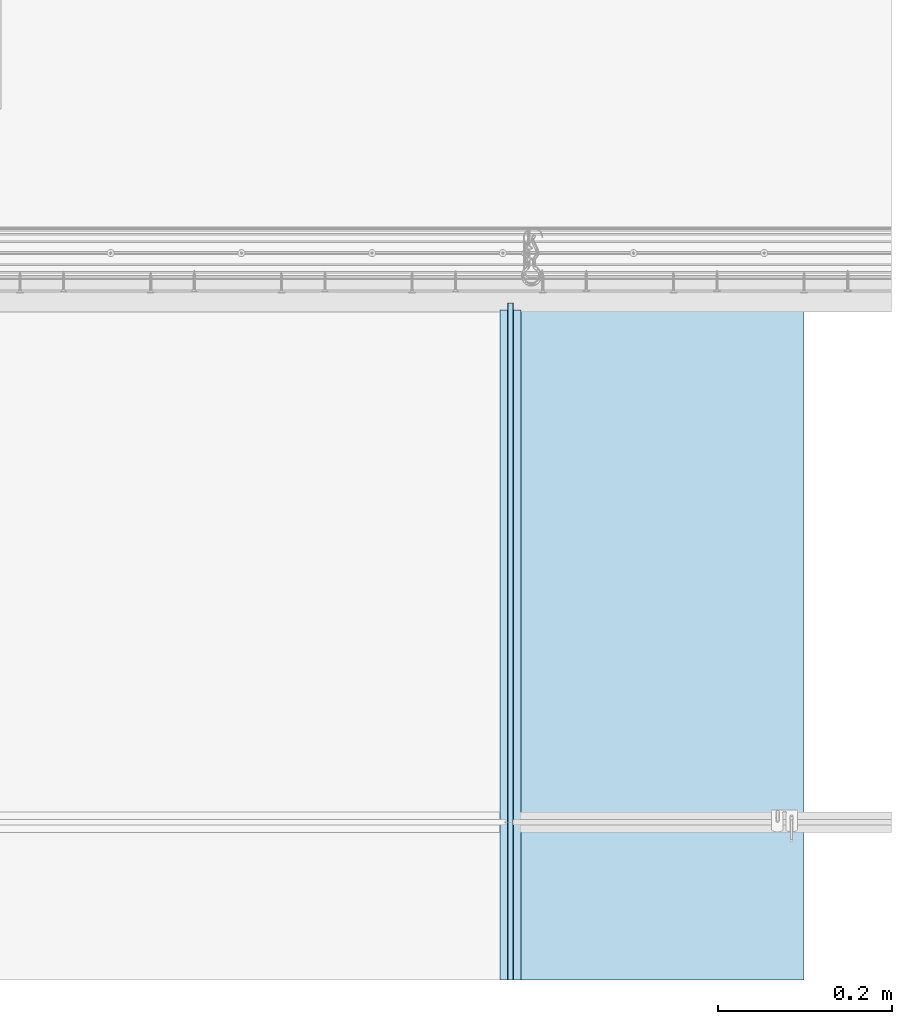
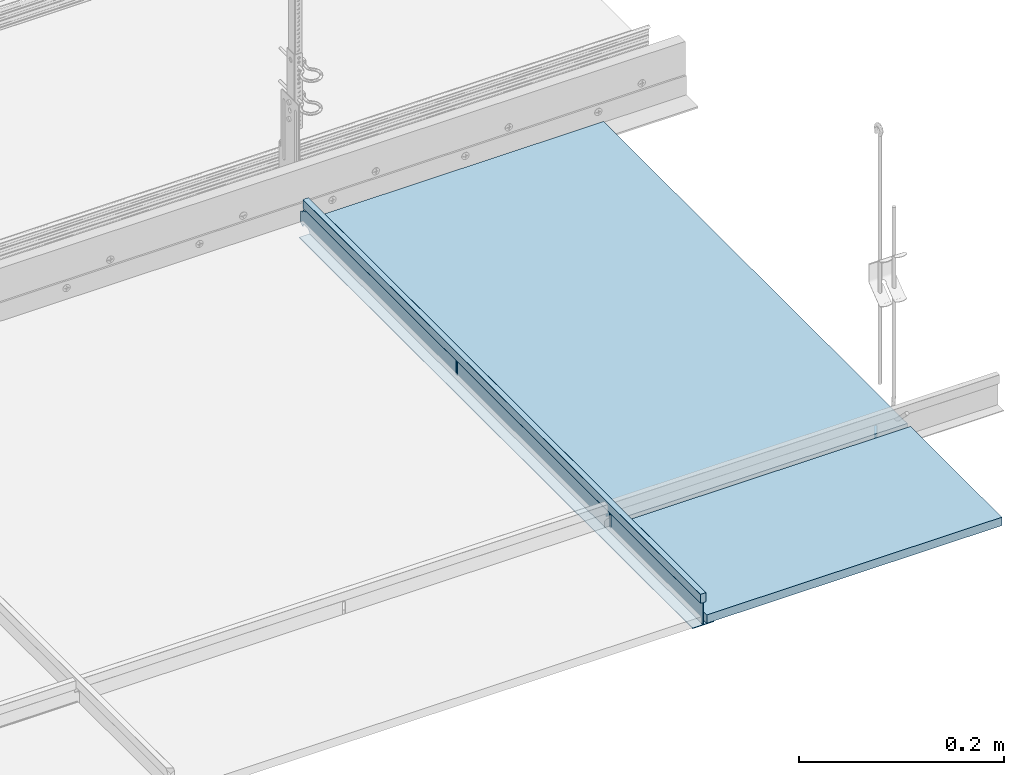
# One storey, part 7 of 79: 3 slabs.
"""IFC2X3 building model written with IfcOpenShell, lengths in millimetres."""

from ifc_helpers import new_model, entity, si_unit, converted_unit, direction, frame, origin, origin_with_axes, place, context, project, spatial, faceted_brep, element, save


model = new_model("IFC2X3")

# Units and contexts
model_context = context("Model", 3, precision=1e-05, world=origin(), true_north=direction((0.0, 1.0, 0.0)))
ifc_project = project(units=[si_unit("LENGTHUNIT", "METRE", prefix="MILLI"), si_unit("AREAUNIT", "SQUARE_METRE"), si_unit("VOLUMEUNIT", "CUBIC_METRE"), converted_unit("PLANEANGLEUNIT", "DEGREE", entity("IfcPlaneAngleMeasure", 0.01745), si_unit("PLANEANGLEUNIT", "RADIAN"), dimensions=[0, 0, 0, 0, 0, 0, 0]), si_unit("SOLIDANGLEUNIT", "STERADIAN"), si_unit("MASSUNIT", "GRAM"), si_unit("TIMEUNIT", "SECOND"), si_unit("THERMODYNAMICTEMPERATUREUNIT", "DEGREE_CELSIUS"), si_unit("LUMINOUSINTENSITYUNIT", "LUMEN")], contexts=[model_context])

# Site, building, storey
site_placement = place(None, origin_with_axes())
site = spatial("IfcSite", under=ifc_project, at=site_placement, Name="Default Site", CompositionType="ELEMENT")
building_placement = place(site_placement, origin_with_axes())
building = spatial("IfcBuilding", under=site, at=building_placement, Name="Default Building", CompositionType="ELEMENT")
storey_placement = place(building_placement, origin_with_axes())
storey = spatial("IfcBuildingStorey", under=building, at=storey_placement, Name="Default Building Storey", CompositionType="ELEMENT", Elevation=0.0)

# Slabs
slab_1_placement = place(storey_placement, frame((3160.04061825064, 1022.220922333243, 991.2852175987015), z_axis=(0.0, 0.0, 1.0), x_axis=(1.0, 0.0, 0.0)))
element("IfcSlab", 1, at=slab_1_placement, inside=storey, Name="Płyta sufitowa RIGIPS CASOPRANO", context=model_context, shape_type="Brep", body=[
    faceted_brep([(332.9999999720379, 594.0000000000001, -9.999999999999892), (3.609557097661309e-13, 593.9999999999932, -10.00000000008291), (0.0, 594.0000000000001, -7.999999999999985), (332.9999999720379, 594.0000000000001, -7.999999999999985), (-3.609557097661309e-13, -1.804778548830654e-13, -10.00000000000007), (332.9999999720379, 4.150990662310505e-12, -10.00000000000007), (332.9999999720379, 4.33146851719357e-12, -7.999999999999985), (0.0, 3.609557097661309e-13, -7.999999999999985), (0.0, 0.0, 0.0), (332.9999999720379, 0.0, 0.0), (0.0, 594.0000000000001, 0.0), (332.9999999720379, 594.0000000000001, 0.0)], [[[0, 1, 2, 3]], [[4, 1, 0, 5]], [[5, 6, 7, 4]], [[8, 7, 6, 9]], [[7, 2, 1, 4]], [[10, 2, 7, 8]], [[11, 3, 2, 10]], [[9, 6, 5, 0, 3, 11]], [[9, 11, 10, 8]]]),
])
slab_2_placement = place(storey_placement, frame((3160.040618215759, 422.2209223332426, 991.2852175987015), z_axis=(0.0, 0.0, 1.0), x_axis=(1.0, 0.0, 0.0)))
element("IfcSlab", 2, at=slab_2_placement, inside=storey, Name="Płyta sufitowa RIGIPS CASOPRANO", context=model_context, shape_type="Brep", body=[
    faceted_brep([(333.0000000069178, 415.4143925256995, -9.023892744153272e-12), (0.0, 415.4143925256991, 0.0), (0.0, 415.4143925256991, -10.00000000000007), (333.0000000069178, 415.4143925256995, -10.00000000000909), (0.0, 594.0000000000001, 0.0), (333.0000000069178, 594.0000000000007, -9.023892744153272e-12), (333.0000000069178, 594.0000000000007, -10.00000000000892), (3.609557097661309e-13, 593.9999999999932, -10.00000000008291)], [[[0, 1, 2, 3]], [[4, 1, 0, 5]], [[6, 3, 2, 7]], [[7, 2, 1, 4]], [[5, 6, 7, 4]], [[0, 3, 6, 5]]]),
])
slab_3_placement = place(storey_placement, frame((3144.035723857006, 837.6353148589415, 980.285217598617), z_axis=(0.0, 0.0, 1.0), x_axis=(1.0, 0.0, 0.0)))
element("IfcSlab", 3, at=slab_3_placement, inside=storey, Name="Profil poprzeczny RIGIPS T24", context=model_context, shape_type="Brep", body=[
    faceted_brep([(23.90000004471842, 769.2103810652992, 3.609557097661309e-13), (24.0000000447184, 769.2103810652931, 0.1000000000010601), (23.99510569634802, 769.2103810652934, 0.06909830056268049), (23.98090174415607, 769.2103810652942, 0.04122147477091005), (23.95877856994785, 769.2103810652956, 0.01909830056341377), (23.93090174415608, 769.2103810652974, 0.004894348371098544), (24.0000000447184, 769.2103810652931, 0.9000000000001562), (23.90000004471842, 769.2103810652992, 1.000000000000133), (23.93090174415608, 769.2103810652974, 0.9951056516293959), (23.95877856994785, 769.2103810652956, 0.9809016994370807), (23.98090174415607, 769.2103810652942, 0.9587785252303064), (23.99510569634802, 769.2103810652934, 0.930901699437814), (4.471844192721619e-08, 769.2103810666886, 0.1000000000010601), (0.1000000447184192, 769.2103810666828, 3.609557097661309e-13), (0.06909834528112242, 769.2103810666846, 0.004894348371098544), (0.04122151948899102, 769.2103810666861, 0.01909830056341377), (0.01909834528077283, 769.2103810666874, 0.04122147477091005), (0.004894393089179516, 769.2103810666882, 0.06909830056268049), (0.1000000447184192, 769.2103810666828, 1.000000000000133), (4.471844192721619e-08, 769.2103810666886, 0.9000000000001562), (0.004894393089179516, 769.2103810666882, 0.930901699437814), (0.01909834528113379, 769.2103810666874, 0.9587785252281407), (0.04122151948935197, 769.2103810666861, 0.9809016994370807), (0.06909834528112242, 769.2103810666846, 0.9951056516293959), (12.25000001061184, 182.5356075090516, 6.830574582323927), (12.25000001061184, 182.5356075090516, 23.83057458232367), (11.75000001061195, 182.5356075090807, 23.83057458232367), (11.75000001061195, 182.5356075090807, 6.830574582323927), (12.25000001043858, 179.5356075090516, 6.830574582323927), (11.75000001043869, 179.5356075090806, 6.830574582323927), (12.25000001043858, 179.5356075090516, 23.83057458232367), (11.75000001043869, 179.5356075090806, 23.83057458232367), (12.2500000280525, 482.5356075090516, 23.83057458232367), (12.25000002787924, 479.5356075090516, 23.83057458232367), (11.75000002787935, 479.5356075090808, 23.83057458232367), (11.75000002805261, 482.5356075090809, 23.83057458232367), (12.25000002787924, 479.5356075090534, 6.830574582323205), (11.75000002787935, 479.5356075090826, 6.830574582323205), (12.2500000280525, 482.5356075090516, 6.830574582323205), (11.75000002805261, 482.5356075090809, 6.830574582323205), (12.25000004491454, 772.5846432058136, 4.956101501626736), (11.75000004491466, 772.5846432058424, 4.956101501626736), (11.75000004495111, 773.2103810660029, 5.005348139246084), (12.250000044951, 773.210381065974, 5.005348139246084), (12.25000004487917, 771.9743130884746, 4.809574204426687), (11.75000004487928, 771.9743130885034, 4.809574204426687), (12.2500000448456, 771.3944190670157, 4.569374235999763), (11.75000004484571, 771.3944190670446, 4.569374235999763), (12.2500000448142, 770.8592400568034, 4.24141611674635), (11.75000004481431, 770.8592400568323, 4.24141611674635), (12.25000004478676, 770.3819539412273, 3.833775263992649), (11.75000004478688, 770.3819539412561, 3.833775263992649), (12.25000004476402, 769.9743130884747, 3.356489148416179), (11.75000004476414, 769.9743130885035, 3.356489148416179), (12.25000004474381, 769.6463549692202, 2.821310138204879), (11.75000004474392, 769.646354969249, 2.821310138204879), (12.25000004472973, 769.406155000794, 2.241416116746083), (11.75000004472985, 769.4061550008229, 2.241416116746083), (12.25000004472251, 769.2596277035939, 1.631085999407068), (11.75000004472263, 769.2596277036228, 1.631085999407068), (12.25000004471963, 769.2103810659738, 1.005348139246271), (11.75000004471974, 769.2103810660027, 1.005348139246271), (12.25000004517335, 777.0356075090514, 5.005348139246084), (12.25000004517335, 777.0356075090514, 4.83057458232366), (12.25000004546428, 782.0356075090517, 4.83057458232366), (12.25000004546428, 782.0356075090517, 1.830574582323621), (12.25000004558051, 784.0356075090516, 1.830574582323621), (12.25000004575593, 787.0356075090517, 3.830574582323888), (12.25000004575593, 787.0356075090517, 16.83057458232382), (12.25000004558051, 784.0356075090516, 18.83057458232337), (12.25000004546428, 782.0356075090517, 18.83057458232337), (12.25000004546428, 782.0356075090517, 21.8305745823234), (12.25000004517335, 777.0356075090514, 21.8305745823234), (12.2531831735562, 777.0356075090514, 26.83057458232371), (12.25216747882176, 595.5836991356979, 26.83060440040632), (12.25114981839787, 595.1491790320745, 26.83056726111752), (12.25217031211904, 594.9777323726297, 26.83063494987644), (12.25217203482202, 591.9068147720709, 26.8306476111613), (12.2531831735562, 0.0, 26.83057458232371), (12.25000000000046, 0.0, 0.8000000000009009), (12.25000004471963, 769.2103810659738, 0.800000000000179), (23.00000004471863, 769.2103810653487, 0.800000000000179), (23.00000004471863, 769.2103810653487, 0.5000000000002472), (1.000000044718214, 769.2103810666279, 0.5000000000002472), (1.000000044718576, 769.2103810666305, 0.800000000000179), (11.75000004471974, 769.2103810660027, 0.800000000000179), (11.75000004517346, 777.0356075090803, 5.005348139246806), (11.75000000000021, 0.0, 0.80000000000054), (11.75000000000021, 0.0, 6.830574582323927), (11.75000004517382, 777.0356075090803, 26.83057458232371), (11.75000004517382, 777.0356075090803, 21.8305745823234), (11.75000004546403, 782.0356075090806, 21.8305745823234), (11.75000004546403, 782.0356075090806, 18.83057458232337), (11.75000004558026, 784.0356075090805, 18.83057458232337), (11.75000004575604, 787.0356075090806, 16.83057458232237), (11.75000004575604, 787.0356075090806, 3.830574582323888), (11.75000004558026, 784.0356075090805, 1.830574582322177), (11.75000004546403, 782.0356075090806, 1.830574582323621), (11.75000004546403, 782.0356075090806, 4.83057458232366), (11.75000004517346, 777.0356075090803, 4.83057458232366), (1.000000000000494, 0.0, 0.5000000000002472), (1.000000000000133, 0.0, 0.80000000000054), (0.9999999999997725, 0.0, 1.000000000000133), (0.09999999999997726, 0.0, 1.000000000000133), (0.06909830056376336, 0.0, 0.995105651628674), (0.04122147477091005, 0.0, 0.9809016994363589), (0.01909830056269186, 0.0, 0.9587785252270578), (0.004894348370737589, 0.0, 0.9309016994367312), (3.609557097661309e-13, 0.0, 0.8999999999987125), (0.0, 0.0, 0.0999999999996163), (0.004894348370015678, 0.0, 0.06909830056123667), (0.01909830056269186, 0.0, 0.04122147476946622), (0.04122147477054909, 0.0, 0.01909830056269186), (0.06909830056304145, 0.0, 0.004894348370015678), (0.1000000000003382, 0.0, 0.0), (23.89999999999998, 0.0, 3.609557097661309e-13), (23.93090169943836, 0.0, 0.004894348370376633), (23.95877852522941, 0.0, 0.0190983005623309), (23.98090169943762, 0.0, 0.04122147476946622), (23.99510565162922, 0.0, 0.06909830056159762), (23.99999999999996, 0.0, 0.1000000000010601), (23.99999999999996, 0.0, 0.9000000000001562), (23.9951056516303, 0.0, 0.9309016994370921), (23.98090169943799, 0.0, 0.9587785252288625), (23.95877852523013, 0.0, 0.9809016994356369), (23.930901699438, 0.0, 0.995105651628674), (23.90000000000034, 0.0, 1.000000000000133), (23.00000000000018, 0.0, 1.000000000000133), (23.00000000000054, 0.0, 0.8000000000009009), (23.00000000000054, 0.0, 0.5000000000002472), (1.000000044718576, 769.2103810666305, 1.000000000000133), (23.00000004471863, 769.2103810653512, 1.000000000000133), (11.74999999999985, 0.0, 26.83057458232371), (12.2531831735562, 0.0, 26.85872058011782), (12.25197263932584, 777.0356075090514, 26.85859504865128), (12.26556593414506, 0.0, 26.90878863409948), (12.28078940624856, 0.0, 26.93719435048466), (12.29739600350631, 0.0, 26.95984956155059), (12.3170128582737, 0.0, 26.97995470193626), (12.33925300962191, 0.0, 26.99711317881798), (12.36367774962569, 0.0, 27.01098652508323), (12.38980527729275, 0.0, 27.02130107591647), (12.41712020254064, 0.0, 27.02785336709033), (15.08287979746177, 0.0, 27.47214663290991), (15.11019472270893, 0.0, 27.4786989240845), (15.13632225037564, 0.0, 27.48901347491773), (15.16074699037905, 0.0, 27.50288682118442), (15.18298714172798, 0.0, 27.52004529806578), (15.20260399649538, 0.0, 27.54015043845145), (15.21921059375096, 0.0, 27.56280564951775), (15.23247935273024, 0.0, 27.58756403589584), (15.24214853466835, 0.0, 27.61393721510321), (15.24802740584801, 0.0, 27.6414049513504), (15.25000000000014, 0.0, 27.66942541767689), (15.2500000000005, 0.0, 37.80000000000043), (15.24753766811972, 0.0, 37.83128689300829), (15.24021130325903, 0.0, 37.86180339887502), (15.22820130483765, 0.0, 37.89079809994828), (15.21180339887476, 0.0, 37.91755705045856), (15.1914213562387, 0.0, 37.94142135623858), (15.16755705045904, 0.0, 37.9618033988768), (15.14079809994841, 0.0, 37.97820130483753), (15.11180339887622, 0.0, 37.99021130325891), (15.08128689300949, 0.0, 37.9975376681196), (15.05000000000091, 0.0, 38.00000000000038), (8.950000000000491, 0.0, 38.00000000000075), (8.918713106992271, 0.0, 37.9975376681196), (8.888196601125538, 0.0, 37.99021130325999), (8.859201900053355, 0.0, 37.97820130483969), (8.832442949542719, 0.0, 37.96180339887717), (8.808578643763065, 0.0, 37.94142135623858), (8.78819660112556, 0.0, 37.91755705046), (8.771798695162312, 0.0, 37.89079809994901), (8.75978869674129, 0.0, 37.86180339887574), (8.752462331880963, 0.0, 37.83128689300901), (8.750000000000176, 0.0, 37.80000000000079), (8.749999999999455, 0.0, 27.66942541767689), (8.751972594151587, 0.0, 27.64140495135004), (8.757851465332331, 0.0, 27.61393721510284), (8.767520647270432, 0.0, 27.58756403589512), (8.78078940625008, 0.0, 27.56280564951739), (8.797396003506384, 0.0, 27.54015043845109), (8.817012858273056, 0.0, 27.52004529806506), (8.839253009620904, 0.0, 27.50288682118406), (8.86367774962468, 0.0, 27.48901347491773), (8.889805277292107, 0.0, 27.4786989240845), (8.91712020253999, 0.0, 27.47214663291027), (11.58287979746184, 0.0, 27.02785336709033), (11.61019472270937, 0.0, 27.0213010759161), (11.63632225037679, 0.0, 27.01098652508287), (11.66074699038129, 0.0, 26.99711317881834), (11.68298714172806, 0.0, 26.97995470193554), (11.70260399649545, 0.0, 26.95984956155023), (11.71921059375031, 0.0, 26.93719435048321), (11.7324793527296, 0.0, 26.91243596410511), (11.7421485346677, 0.0, 26.88606278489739), (11.74802740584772, 0.0, 26.85859504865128), (15.08287984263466, 777.0356075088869, 27.47214663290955), (15.25000004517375, 777.0356075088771, 27.66942541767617), (15.24802745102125, 777.0356075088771, 27.64140495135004), (15.24214857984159, 777.0356075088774, 27.61393721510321), (15.23247939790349, 777.0356075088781, 27.58756403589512), (15.21921063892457, 777.0356075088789, 27.56280564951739), (15.2026040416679, 777.0356075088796, 27.54015043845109), (15.18298718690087, 777.0356075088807, 27.52004529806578), (15.16074703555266, 777.0356075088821, 27.5028868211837), (15.13632229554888, 777.0356075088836, 27.48901347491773), (15.11019476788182, 777.035607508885, 27.4786989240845), (8.917120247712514, 777.0356075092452, 27.47214663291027), (8.750000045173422, 777.035607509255, 27.66942541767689), (12.4171202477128, 777.0356075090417, 27.02785336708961), (12.38980532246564, 777.0356075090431, 27.0213010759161), (12.36367779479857, 777.0356075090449, 27.01098652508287), (12.33925305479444, 777.035607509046, 26.99711317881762), (12.31701290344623, 777.0356075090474, 26.97995470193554), (12.29739604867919, 777.0356075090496, 26.95984956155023), (12.28078945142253, 777.0356075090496, 26.93719435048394), (12.2675206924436, 777.0356075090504, 26.9124359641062), (11.66074703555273, 777.0356075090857, 26.99711317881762), (11.6363222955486, 777.0356075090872, 27.01098652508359), (11.61019476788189, 777.0356075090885, 27.02130107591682), (11.58287984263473, 777.03560750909, 27.02785336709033), (8.889805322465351, 777.0356075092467, 27.4786989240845), (8.863677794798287, 777.0356075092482, 27.48901347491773), (8.83925305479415, 777.0356075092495, 27.5028868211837), (8.817012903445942, 777.035607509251, 27.52004529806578), (8.797396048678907, 777.0356075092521, 27.54015043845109), (8.780789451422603, 777.0356075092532, 27.56280564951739), (8.767520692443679, 777.035607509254, 27.58756403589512), (8.757851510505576, 777.0356075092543, 27.61393721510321), (8.751972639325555, 777.0356075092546, 27.64140495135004), (11.70260404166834, 777.0356075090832, 26.95984956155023), (11.68298718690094, 777.0356075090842, 26.97995470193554), (12.2578515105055, 777.035607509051, 26.88606278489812), (12.25282061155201, 557.6175692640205, 26.85860023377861), (12.26508841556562, 743.9273872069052, 26.91267923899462), (12.25819111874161, 411.4434548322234, 26.88602829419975), (15.2475377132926, 777.0356075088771, 37.83128689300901), (15.25000004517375, 777.0356075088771, 37.79999999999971), (15.24021134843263, 777.0356075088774, 37.86180339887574), (8.77179874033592, 777.0356075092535, 37.89079809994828), (8.788196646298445, 777.0356075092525, 37.91755705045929), (15.11180344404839, 777.035607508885, 37.99021130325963), (15.14079814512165, 777.0356075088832, 37.97820130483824), (8.832442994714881, 777.03560750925, 37.96180339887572), (8.859201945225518, 777.0356075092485, 37.97820130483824), (15.16755709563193, 777.0356075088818, 37.96180339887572), (8.750000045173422, 777.035607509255, 37.80000000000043), (8.75246237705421, 777.0356075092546, 37.83128689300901), (8.950000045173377, 777.035607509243, 38.00000000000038), (15.05000004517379, 777.0356075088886, 37.99999999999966), (15.19142140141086, 777.0356075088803, 37.94142135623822), (15.21180344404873, 777.0356075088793, 37.91755705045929), (8.759788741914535, 777.0356075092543, 37.86180339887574), (11.71921063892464, 777.0356075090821, 26.93719435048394), (11.73247939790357, 777.0356075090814, 26.9124359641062), (11.74802745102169, 777.0356075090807, 26.85859504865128), (11.74214857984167, 777.035607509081, 26.88606278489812), (15.22820135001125, 777.0356075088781, 37.89079809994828), (8.80857868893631, 777.0356075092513, 37.94142135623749), (8.918713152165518, 777.0356075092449, 37.9975376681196), (8.888196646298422, 777.0356075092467, 37.99021130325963), (15.08128693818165, 777.0356075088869, 37.9975376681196)], [[[0, 1, 2, 3, 4, 5]], [[6, 7, 8, 9, 10, 11]], [[12, 13, 14, 15, 16, 17]], [[18, 19, 20, 21, 22, 23]], [[24, 25, 26, 27]], [[28, 24, 27, 29]], [[30, 28, 29, 31]], [[25, 30, 31, 26]], [[32, 33, 34, 35]], [[33, 36, 37, 34]], [[36, 38, 39, 37]], [[38, 32, 35, 39]], [[40, 41, 42, 43]], [[41, 40, 44, 45]], [[45, 44, 46, 47]], [[47, 46, 48, 49]], [[49, 48, 50, 51]], [[51, 50, 52, 53]], [[53, 52, 54, 55]], [[55, 54, 56, 57]], [[57, 56, 58, 59]], [[59, 58, 60, 61]], [[40, 43, 62, 63, 64, 65, 66, 67, 68, 69, 70, 71, 72, 73, 74, 75, 76, 77, 78, 79, 80, 60, 58, 56, 54, 52, 50, 48, 46, 44], [33, 32, 38, 36], [25, 24, 28, 30]], [[60, 80, 81, 82, 83, 84, 85, 61]], [[62, 43, 42, 86]], [[85, 87, 88, 29, 27, 26, 34, 37, 39, 35, 89, 90, 91, 92, 93, 94, 95, 96, 97, 98, 99, 86, 42, 41, 45, 47, 49, 51, 53, 55, 57, 59, 61]], [[100, 101, 102, 103, 104, 105, 106, 107, 108, 109, 110, 111, 112, 113, 114, 115, 116, 117, 118, 119, 120, 121, 122, 123, 124, 125, 126, 127, 128, 129]], [[13, 114, 113, 14]], [[18, 130, 84, 83, 82, 81, 131, 7, 6, 1, 0, 13, 12, 19]], [[5, 116, 115, 0]], [[63, 62, 86, 99]], [[64, 63, 99, 98]], [[65, 64, 98, 97]], [[72, 71, 91, 90]], [[71, 70, 92, 91]], [[70, 69, 93, 92]], [[69, 68, 94, 93]], [[68, 67, 95, 94]], [[67, 66, 96, 95]], [[66, 65, 97, 96]], [[80, 79, 128, 81]], [[79, 78, 132, 88, 87, 101, 100, 129, 128]], [[89, 73, 74, 75, 76, 77, 78, 132]], [[90, 89, 73, 72]], [[78, 77, 133]], [[74, 73, 134]], [[78, 133, 135, 136, 137, 138, 139, 140, 141, 142, 143, 144, 145, 146, 147, 148, 149, 150, 151, 152, 153, 154, 155, 156, 157, 158, 159, 160, 161, 162, 163, 164, 165, 166, 167, 168, 169, 170, 171, 172, 173, 174, 175, 176, 177, 178, 179, 180, 181, 182, 183, 184, 185, 186, 187, 188, 189, 190, 191, 192, 193, 194, 195, 196, 132]], [[197, 198, 199, 200, 201, 202, 203, 204, 205, 206, 207]], [[208, 209, 198, 197, 210, 211, 212, 213, 214, 215, 216, 217, 218, 219, 220, 221]], [[209, 208, 222, 223, 224, 225, 226, 227, 228, 229, 230]], [[231, 232, 218, 233]], [[136, 216, 215, 137]], [[234, 133, 77]], [[235, 136, 135]], [[217, 235, 233]], [[233, 235, 236]], [[134, 234, 77, 76, 75, 74]], [[235, 216, 215, 137, 136]], [[135, 236, 235]], [[217, 216, 235]], [[237, 155, 154, 238]], [[239, 156, 155, 237]], [[240, 172, 171, 241]], [[198, 153, 152, 199]], [[242, 162, 161, 243]], [[199, 152, 151, 200]], [[203, 148, 147, 204]], [[202, 149, 148, 203]], [[222, 185, 184, 223]], [[229, 178, 177, 230]], [[244, 169, 168, 245]], [[218, 190, 189, 219]], [[204, 147, 146, 205]], [[210, 142, 141, 211]], [[214, 138, 137, 215]], [[206, 145, 144, 207]], [[243, 161, 160, 246]], [[247, 175, 174, 248]], [[249, 165, 164, 250]], [[251, 159, 158, 252]], [[227, 180, 179, 228]], [[219, 189, 188, 220]], [[253, 173, 172, 240]], [[224, 183, 182, 225]], [[225, 182, 181, 226]], [[226, 181, 180, 227]], [[254, 193, 192, 231]], [[255, 194, 193, 254]], [[248, 174, 173, 253]], [[212, 140, 139, 213]], [[89, 132, 196, 256]], [[256, 196, 195, 257]], [[213, 139, 138, 214]], [[252, 158, 157, 258]], [[241, 171, 170, 259]], [[230, 177, 176, 209]], [[231, 192, 191, 232]], [[260, 166, 165, 249]], [[208, 186, 185, 222]], [[261, 167, 166, 260]], [[200, 151, 150, 201]], [[201, 150, 149, 202]], [[258, 157, 156, 239]], [[223, 184, 183, 224]], [[232, 191, 190, 218]], [[246, 160, 159, 251]], [[228, 179, 178, 229]], [[211, 141, 140, 212]], [[245, 168, 167, 261]], [[250, 164, 163, 262]], [[257, 195, 194, 255]], [[235, 135, 236, 233, 217]], [[135, 133, 234, 134, 233, 236]], [[238, 198, 209, 247, 249, 250]], [[205, 146, 145, 206]], [[197, 143, 142, 210]], [[134, 73, 89, 256, 257, 255, 254, 231, 233]], [[217, 233, 218]], [[209, 176, 175, 247]], [[262, 163, 162, 242]], [[259, 170, 169, 244]], [[207, 144, 143, 197]], [[220, 188, 187, 221]], [[84, 101, 87, 85]], [[29, 88, 132, 89, 35, 34, 26, 31]], [[221, 187, 186, 208]], [[238, 154, 153, 198]], [[21, 106, 105, 22]], [[8, 125, 124, 9]], [[14, 113, 112, 15]], [[20, 107, 106, 21]], [[9, 124, 123, 10]], [[13, 0, 115, 114]], [[15, 112, 111, 16]], [[16, 111, 110, 17]], [[7, 126, 125, 8]], [[1, 120, 119, 2]], [[19, 108, 107, 20]], [[18, 103, 102, 130]], [[131, 127, 126, 7]], [[10, 123, 122, 11]], [[84, 83, 100, 101]], [[3, 118, 117, 4]], [[4, 117, 116, 5]], [[11, 122, 121, 6]], [[2, 119, 118, 3]], [[6, 121, 120, 1]], [[23, 104, 103, 18]], [[129, 82, 81, 128]], [[12, 109, 108, 19]], [[22, 105, 104, 23]], [[17, 110, 109, 12]], [[100, 83, 82, 129]]]),
])

save(model, "model.ifc")
